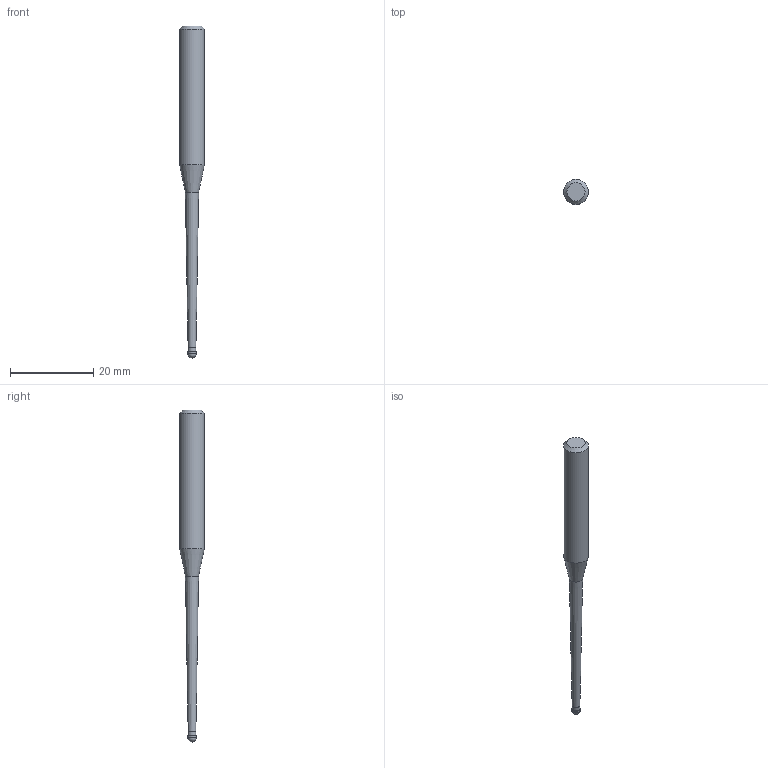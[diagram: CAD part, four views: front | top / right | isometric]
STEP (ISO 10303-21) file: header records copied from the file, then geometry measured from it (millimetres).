
FILE_DESCRIPTION((''),'2;1');
FILE_NAME('C:\Users\nsx150\AppData\Local\Temp\Mastercam 2021\E0ENTZRV18\TEMP.step','2021-09-02T09:56:54',(''),(''),'STEP Write','Mastercam 2021 ... CNC Software, Inc.','');
FILE_SCHEMA(('AUTOMOTIVE_DESIGN'));
Length unit declared in the file: millimetre
Products named in the file (1): None
Bounding box: 6 x 6 x 80 mm (x, y, z)
Volume: 1252.5 mm3; surface area: 1066 mm2
Topology: 2 solids, 2 shells, 10 faces, 16 edges, 9 vertices
Faces by surface type: plane 3, cylinder 3, cone 3, sphere 1
Full cylindrical faces by diameter (mm): 1.875 x1, 2 x1, 6 x1
Entity records: 232 total; most frequent: DIRECTION 40, CARTESIAN_POINT 28, AXIS2_PLACEMENT_3D 20, ORIENTED_EDGE 16, EDGE_LOOP 16, STYLED_ITEM 13, ADVANCED_FACE 10, FACE_BOUND 9
